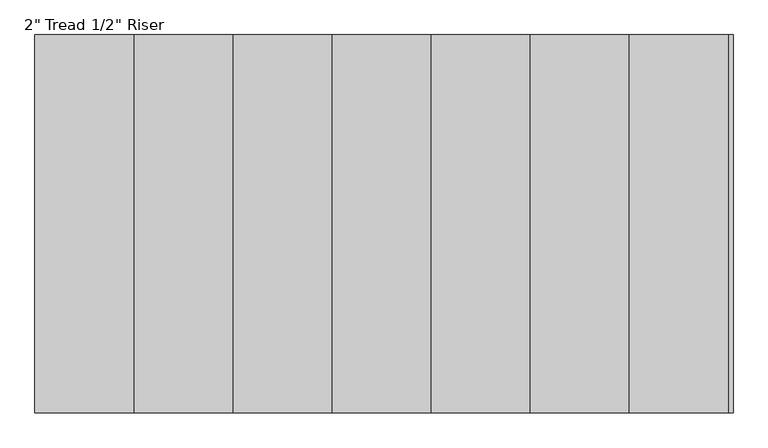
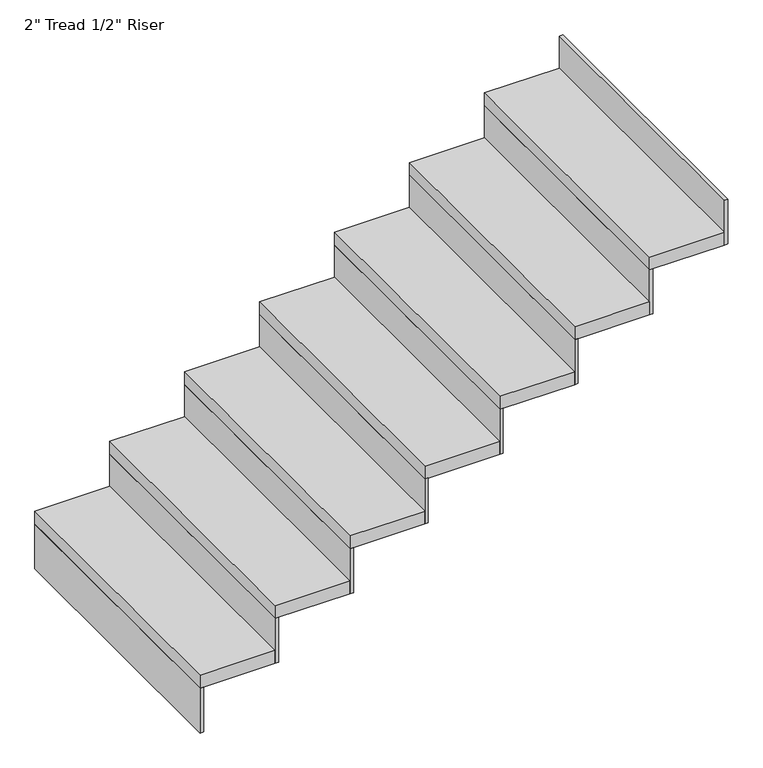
"""IFC4 building model written with IfcOpenShell, lengths in millimetres: stair flight geometry."""

from ifc_helpers import new_model, si_unit, frame, origin, place, context, project, spatial, polyline, outline, extrude, source, transform, mapped, element, save


def stair_flight_e66c2ff5(model_context):
    return source(origin(), model_context, "Body", "SweptSolid", [
        extrude(outline(polyline([(12396.0254798, 8614.3365306), (12383.3254798, 8614.3365306), (12383.3254798, 9681.1365306), (12396.0254798, 9681.1365306), (12396.0254798, 8614.3365306)])), frame((0.0, 0.0, -1379.1259259), z_axis=(0.0, 0.0, 1.0), x_axis=(1.0, 0.0, 0.0)), (0.0, 0.0, 1.0), 176.8592593),
        extrude(outline(polyline([(12662.7254798, 9681.1365306), (12662.7254798, 8614.3365306), (12383.3254798, 8614.3365306), (12383.3254798, 9681.1365306), (12662.7254798, 9681.1365306)])), frame((0.0, 0.0, -1202.2666667), z_axis=(0.0, 0.0, 1.0), x_axis=(1.0, 0.0, 0.0)), (0.0, 0.0, 1.0), 50.8),
        extrude(outline(polyline([(12675.4254798, 8614.3365306), (12662.7254798, 8614.3365306), (12662.7254798, 9681.1365306), (12675.4254798, 9681.1365306), (12675.4254798, 8614.3365306)])), frame((0.0, 0.0, -1202.2666667), z_axis=(0.0, 0.0, 1.0), x_axis=(1.0, 0.0, 0.0)), (0.0, 0.0, 1.0), 176.8592593),
        extrude(outline(polyline([(12942.1254798, 9681.1365306), (12942.1254798, 8614.3365306), (12662.7254798, 8614.3365306), (12662.7254798, 9681.1365306), (12942.1254798, 9681.1365306)])), frame((0.0, 0.0, -1025.4074074), z_axis=(0.0, 0.0, 1.0), x_axis=(1.0, 0.0, 0.0)), (0.0, 0.0, 1.0), 50.8),
        extrude(outline(polyline([(12954.8254798, 8614.3365306), (12942.1254798, 8614.3365306), (12942.1254798, 9681.1365306), (12954.8254798, 9681.1365306), (12954.8254798, 8614.3365306)])), frame((0.0, 0.0, -1025.4074074), z_axis=(0.0, 0.0, 1.0), x_axis=(1.0, 0.0, 0.0)), (0.0, 0.0, 1.0), 176.8592593),
        extrude(outline(polyline([(13221.5254798, 9681.1365306), (13221.5254798, 8614.3365306), (12942.1254798, 8614.3365306), (12942.1254798, 9681.1365306), (13221.5254798, 9681.1365306)])), frame((0.0, 0.0, -848.5481481), z_axis=(0.0, 0.0, 1.0), x_axis=(1.0, 0.0, 0.0)), (0.0, 0.0, 1.0), 50.8),
        extrude(outline(polyline([(13234.2254798, 8614.3365306), (13221.5254798, 8614.3365306), (13221.5254798, 9681.1365306), (13234.2254798, 9681.1365306), (13234.2254798, 8614.3365306)])), frame((0.0, 0.0, -848.5481481), z_axis=(0.0, 0.0, 1.0), x_axis=(1.0, 0.0, 0.0)), (0.0, 0.0, 1.0), 176.8592593),
        extrude(outline(polyline([(13500.9254798, 9681.1365306), (13500.9254798, 8614.3365306), (13221.5254798, 8614.3365306), (13221.5254798, 9681.1365306), (13500.9254798, 9681.1365306)])), frame((0.0, 0.0, -671.6888889), z_axis=(0.0, 0.0, 1.0), x_axis=(1.0, 0.0, 0.0)), (0.0, 0.0, 1.0), 50.8),
        extrude(outline(polyline([(13513.6254798, 8614.3365306), (13500.9254798, 8614.3365306), (13500.9254798, 9681.1365306), (13513.6254798, 9681.1365306), (13513.6254798, 8614.3365306)])), frame((0.0, 0.0, -671.6888889), z_axis=(0.0, 0.0, 1.0), x_axis=(1.0, 0.0, 0.0)), (0.0, 0.0, 1.0), 176.8592593),
        extrude(outline(polyline([(13780.3254798, 9681.1365306), (13780.3254798, 8614.3365306), (13500.9254798, 8614.3365306), (13500.9254798, 9681.1365306), (13780.3254798, 9681.1365306)])), frame((0.0, 0.0, -494.8296296), z_axis=(0.0, 0.0, 1.0), x_axis=(1.0, 0.0, 0.0)), (0.0, 0.0, 1.0), 50.8),
        extrude(outline(polyline([(13793.0254798, 8614.3365306), (13780.3254798, 8614.3365306), (13780.3254798, 9681.1365306), (13793.0254798, 9681.1365306), (13793.0254798, 8614.3365306)])), frame((0.0, 0.0, -494.8296296), z_axis=(0.0, 0.0, 1.0), x_axis=(1.0, 0.0, 0.0)), (0.0, 0.0, 1.0), 176.8592593),
        extrude(outline(polyline([(14059.7254798, 9681.1365306), (14059.7254798, 8614.3365306), (13780.3254798, 8614.3365306), (13780.3254798, 9681.1365306), (14059.7254798, 9681.1365306)])), frame((0.0, 0.0, -317.9703704), z_axis=(0.0, 0.0, 1.0), x_axis=(1.0, 0.0, 0.0)), (0.0, 0.0, 1.0), 50.8),
        extrude(outline(polyline([(14072.4254798, 8614.3365306), (14059.7254798, 8614.3365306), (14059.7254798, 9681.1365306), (14072.4254798, 9681.1365306), (14072.4254798, 8614.3365306)])), frame((0.0, 0.0, -317.9703704), z_axis=(0.0, 0.0, 1.0), x_axis=(1.0, 0.0, 0.0)), (0.0, 0.0, 1.0), 176.8592593),
        extrude(outline(polyline([(14351.8254798, 8614.3365306), (14339.1254798, 8614.3365306), (14339.1254798, 9681.1365306), (14351.8254798, 9681.1365306), (14351.8254798, 8614.3365306)])), frame((0.0, 0.0, -141.1111111), z_axis=(0.0, 0.0, 1.0), x_axis=(1.0, 0.0, 0.0)), (0.0, 0.0, 1.0), 176.8592593),
        extrude(outline(polyline([(14339.1254798, 9681.1365306), (14339.1254798, 8614.3365306), (14059.7254798, 8614.3365306), (14059.7254798, 9681.1365306), (14339.1254798, 9681.1365306)])), frame((0.0, 0.0, -141.1111111), z_axis=(0.0, 0.0, 1.0), x_axis=(1.0, 0.0, 0.0)), (0.0, 0.0, 1.0), 50.8),
    ])


if __name__ == "__main__":
    model = new_model("IFC4")
    model_context = context("Model", 3, world=origin())
    ifc_project = project(units=[si_unit("LENGTHUNIT", "METRE", prefix="MILLI")], contexts=[model_context])
    site = spatial("IfcSite", under=ifc_project)
    building = spatial("IfcBuilding", under=site)
    placement = place(None, origin())
    stair_flight_shape = stair_flight_e66c2ff5(model_context)
    element("IfcStairFlight", 1, ObjectType="2\" Tread 1/2\" Riser", at=placement, inside=building, context=model_context, shape_type="MappedRepresentation", body=[
        mapped(stair_flight_shape, transform((0.0, 0.0, 0.0), x_axis=(1.0, 0.0, 0.0), y_axis=(0.0, 1.0, 0.0), z_axis=(0.0, 0.0, 1.0))),
    ])
    save(model, "model.ifc")
